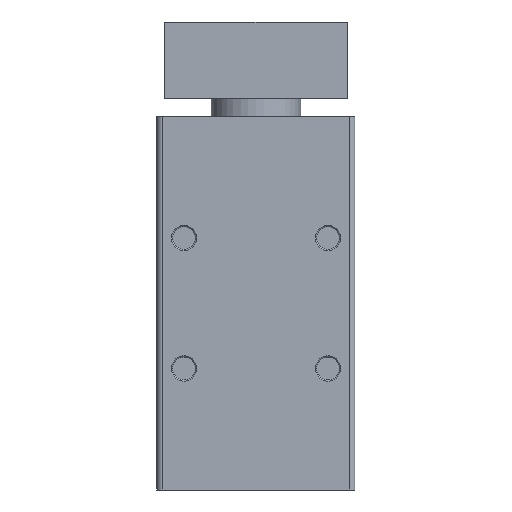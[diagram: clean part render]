
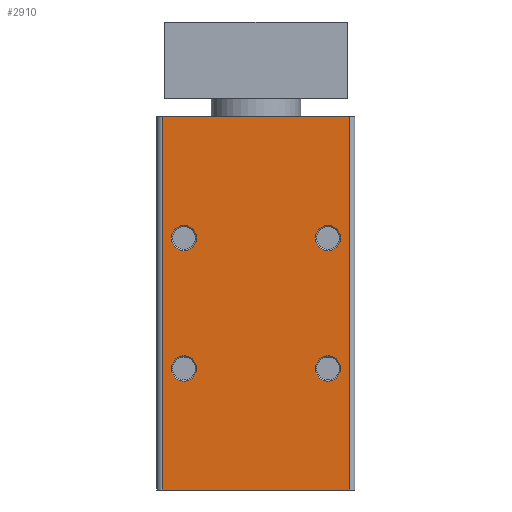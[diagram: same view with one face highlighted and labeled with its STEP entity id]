
A CAD part, front view. The second image highlights one B-rep face of the part: STEP entity #2910.
In plain terms, the highlighted planar face has unit normal (0, -1, 0).
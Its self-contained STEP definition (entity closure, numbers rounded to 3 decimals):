
#1357=CARTESIAN_POINT('',(20.8,-56.,-87.));
#1358=VERTEX_POINT('',#1357);
#1366=CARTESIAN_POINT('',(-20.8,-56.,-87.));
#1367=VERTEX_POINT('',#1366);
#1368=CARTESIAN_POINT('',(-20.8,-56.,-87.));
#1369=DIRECTION('',(1.0,0.0,0.0));
#1370=VECTOR('',#1369,41.6);
#1371=LINE('',#1368,#1370);
#1372=EDGE_CURVE('',#1367,#1358,#1371,.T.);
#1639=CARTESIAN_POINT('',(-20.8,-56.,-4.));
#1640=VERTEX_POINT('',#1639);
#1648=CARTESIAN_POINT('',(20.8,-56.,-4.));
#1649=VERTEX_POINT('',#1648);
#1650=CARTESIAN_POINT('',(20.8,-56.,-4.));
#1651=DIRECTION('',(-1.0,0.0,0.0));
#1652=VECTOR('',#1651,41.6);
#1653=LINE('',#1650,#1652);
#1654=EDGE_CURVE('',#1649,#1640,#1653,.T.);
#2841=CARTESIAN_POINT('',(-13.2,-56.,-31.));
#2842=VERTEX_POINT('',#2841);
#2843=CARTESIAN_POINT('',(-16.0,-56.,-31.));
#2844=DIRECTION('',(0.0,-1.0,0.0));
#2845=DIRECTION('',(-1.0,0.0,0.0));
#2846=AXIS2_PLACEMENT_3D('',#2843,#2844,#2845);
#2847=CIRCLE('',#2846,2.8);
#2848=EDGE_CURVE('',#2842,#2842,#2847,.T.);
#2853=CARTESIAN_POINT('',(-20.8,-56.,-4.));
#2854=DIRECTION('',(0.0,-1.0,0.0));
#2855=DIRECTION('',(0.0,0.0,-1.0));
#2856=AXIS2_PLACEMENT_3D('',#2853,#2854,#2855);
#2857=PLANE('',#2856);
#2858=ORIENTED_EDGE('',*,*,#1372,.T.);
#2859=CARTESIAN_POINT('',(20.8,-56.,-4.));
#2860=DIRECTION('',(0.0,0.0,-1.0));
#2861=VECTOR('',#2860,83.0);
#2862=LINE('',#2859,#2861);
#2863=EDGE_CURVE('',#1649,#1358,#2862,.T.);
#2864=ORIENTED_EDGE('',*,*,#2863,.F.);
#2865=ORIENTED_EDGE('',*,*,#1654,.T.);
#2866=CARTESIAN_POINT('',(-20.8,-56.,-4.));
#2867=DIRECTION('',(0.0,0.0,-1.0));
#2868=VECTOR('',#2867,83.0);
#2869=LINE('',#2866,#2868);
#2870=EDGE_CURVE('',#1640,#1367,#2869,.T.);
#2871=ORIENTED_EDGE('',*,*,#2870,.T.);
#2872=EDGE_LOOP('',(#2858,#2864,#2865,#2871));
#2873=FACE_OUTER_BOUND('',#2872,.T.);
#2874=CARTESIAN_POINT('',(-13.2,-56.,-60.0));
#2875=VERTEX_POINT('',#2874);
#2876=CARTESIAN_POINT('',(-16.0,-56.,-60.0));
#2877=DIRECTION('',(0.0,-1.0,0.0));
#2878=DIRECTION('',(-1.0,0.0,0.0));
#2879=AXIS2_PLACEMENT_3D('',#2876,#2877,#2878);
#2880=CIRCLE('',#2879,2.8);
#2881=EDGE_CURVE('',#2875,#2875,#2880,.T.);
#2882=ORIENTED_EDGE('',*,*,#2881,.F.);
#2883=EDGE_LOOP('',(#2882));
#2884=FACE_BOUND('',#2883,.T.);
#2885=CARTESIAN_POINT('',(18.8,-56.,-31.));
#2886=VERTEX_POINT('',#2885);
#2887=CARTESIAN_POINT('',(16.0,-56.,-31.));
#2888=DIRECTION('',(0.0,-1.0,0.0));
#2889=DIRECTION('',(-1.0,0.0,0.0));
#2890=AXIS2_PLACEMENT_3D('',#2887,#2888,#2889);
#2891=CIRCLE('',#2890,2.8);
#2892=EDGE_CURVE('',#2886,#2886,#2891,.T.);
#2893=ORIENTED_EDGE('',*,*,#2892,.F.);
#2894=EDGE_LOOP('',(#2893));
#2895=FACE_BOUND('',#2894,.T.);
#2896=CARTESIAN_POINT('',(18.8,-56.,-60.0));
#2897=VERTEX_POINT('',#2896);
#2898=CARTESIAN_POINT('',(16.0,-56.,-60.0));
#2899=DIRECTION('',(0.0,-1.0,0.0));
#2900=DIRECTION('',(-1.0,0.0,0.0));
#2901=AXIS2_PLACEMENT_3D('',#2898,#2899,#2900);
#2902=CIRCLE('',#2901,2.8);
#2903=EDGE_CURVE('',#2897,#2897,#2902,.T.);
#2904=ORIENTED_EDGE('',*,*,#2903,.F.);
#2905=EDGE_LOOP('',(#2904));
#2906=FACE_BOUND('',#2905,.T.);
#2907=ORIENTED_EDGE('',*,*,#2848,.F.);
#2908=EDGE_LOOP('',(#2907));
#2909=FACE_BOUND('',#2908,.T.);
#2910=ADVANCED_FACE('',(#2873,#2884,#2895,#2906,#2909),#2857,.T.);
